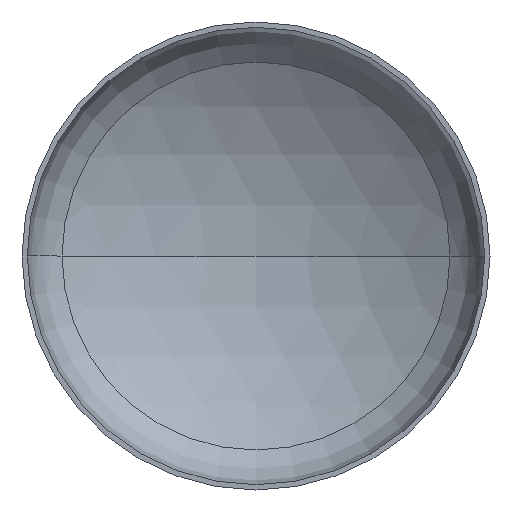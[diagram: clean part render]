
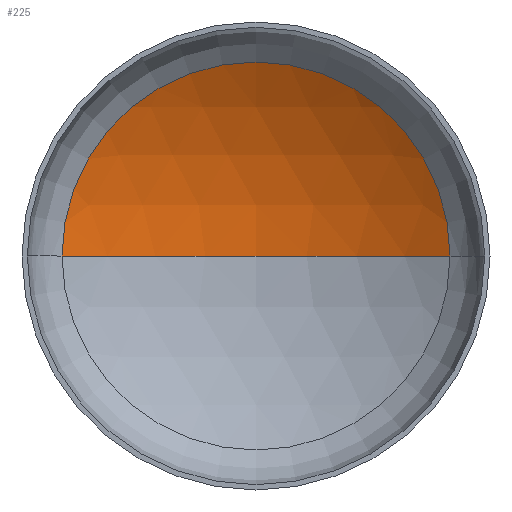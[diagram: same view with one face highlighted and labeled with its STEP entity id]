
A CAD part, front view. The second image highlights one B-rep face of the part: STEP entity #225.
In plain terms, the highlighted spherical face has radius 3040 mm.
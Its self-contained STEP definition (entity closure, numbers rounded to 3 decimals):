
#1 = VERTEX_POINT ( 'NONE', #197 ) ;
#10 = SPHERICAL_SURFACE ( 'NONE', #46, 3040. ) ;
#23 = AXIS2_PLACEMENT_3D ( 'NONE', #200, #198, #398 ) ;
#28 = AXIS2_PLACEMENT_3D ( 'NONE', #308, #311, #321 ) ;
#30 = AXIS2_PLACEMENT_3D ( 'NONE', #287, #288, #291 ) ;
#32 = ORIENTED_EDGE ( 'NONE', *, *, #338, .T. ) ;
#39 = EDGE_LOOP ( 'NONE', ( #86, #32, #125 ) ) ;
#42 = CARTESIAN_POINT ( 'NONE',  ( 0., 1070.228, 0. ) ) ;
#46 = AXIS2_PLACEMENT_3D ( 'NONE', #247, #249, #240 ) ;
#57 = CARTESIAN_POINT ( 'NONE',  ( -1575.104, 630.353, 0. ) ) ;
#86 = ORIENTED_EDGE ( 'NONE', *, *, #342, .F. ) ;
#125 = ORIENTED_EDGE ( 'NONE', *, *, #335, .T. ) ;
#129 = VERTEX_POINT ( 'NONE', #42 ) ;
#134 = VERTEX_POINT ( 'NONE', #57 ) ;
#163 = CIRCLE ( 'NONE', #28, 3040. ) ;
#197 = CARTESIAN_POINT ( 'NONE',  ( 1575.104, 630.353, 0. ) ) ;
#198 = DIRECTION ( 'NONE',  ( 0., 0., 1. ) ) ;
#200 = CARTESIAN_POINT ( 'NONE',  ( 0., -1969.772, 0. ) ) ;
#225 = ADVANCED_FACE ( 'NONE', ( #236 ), #10, .F. ) ;
#236 = FACE_OUTER_BOUND ( 'NONE', #39, .T. ) ;
#240 = DIRECTION ( 'NONE',  ( -1., 0., 0. ) ) ;
#247 = CARTESIAN_POINT ( 'NONE',  ( 0., -1969.772, 0. ) ) ;
#249 = DIRECTION ( 'NONE',  ( 0., 0., -1. ) ) ;
#268 = CIRCLE ( 'NONE', #23, 3040. ) ;
#287 = CARTESIAN_POINT ( 'NONE',  ( 0., 630.353, 0. ) ) ;
#288 = DIRECTION ( 'NONE',  ( 0., -1., 0. ) ) ;
#291 = DIRECTION ( 'NONE',  ( 1., 0., 0. ) ) ;
#308 = CARTESIAN_POINT ( 'NONE',  ( 0., -1969.772, 0. ) ) ;
#311 = DIRECTION ( 'NONE',  ( 0., 0., -1. ) ) ;
#321 = DIRECTION ( 'NONE',  ( -1., 0., 0. ) ) ;
#335 = EDGE_CURVE ( 'NONE', #1, #134, #403, .T. ) ;
#338 = EDGE_CURVE ( 'NONE', #129, #1, #163, .T. ) ;
#342 = EDGE_CURVE ( 'NONE', #129, #134, #268, .T. ) ;
#398 = DIRECTION ( 'NONE',  ( 1., 0., 0. ) ) ;
#403 = CIRCLE ( 'NONE', #30, 1575.104 ) ;
